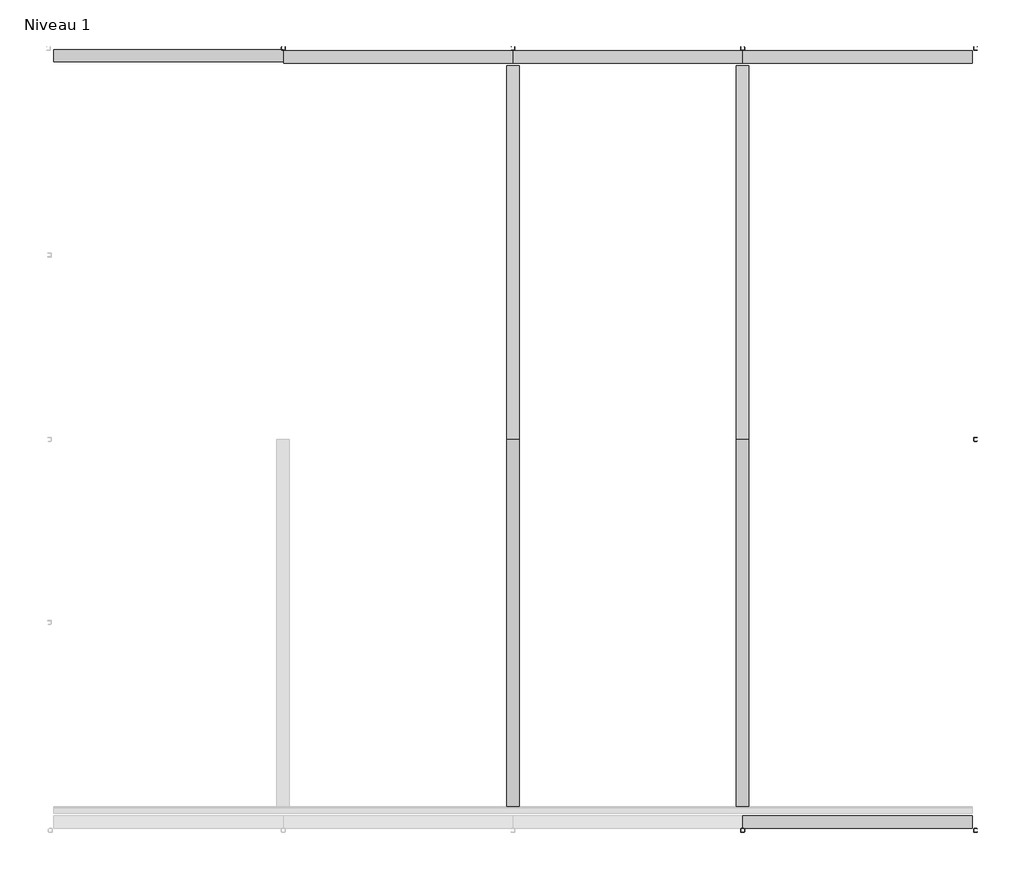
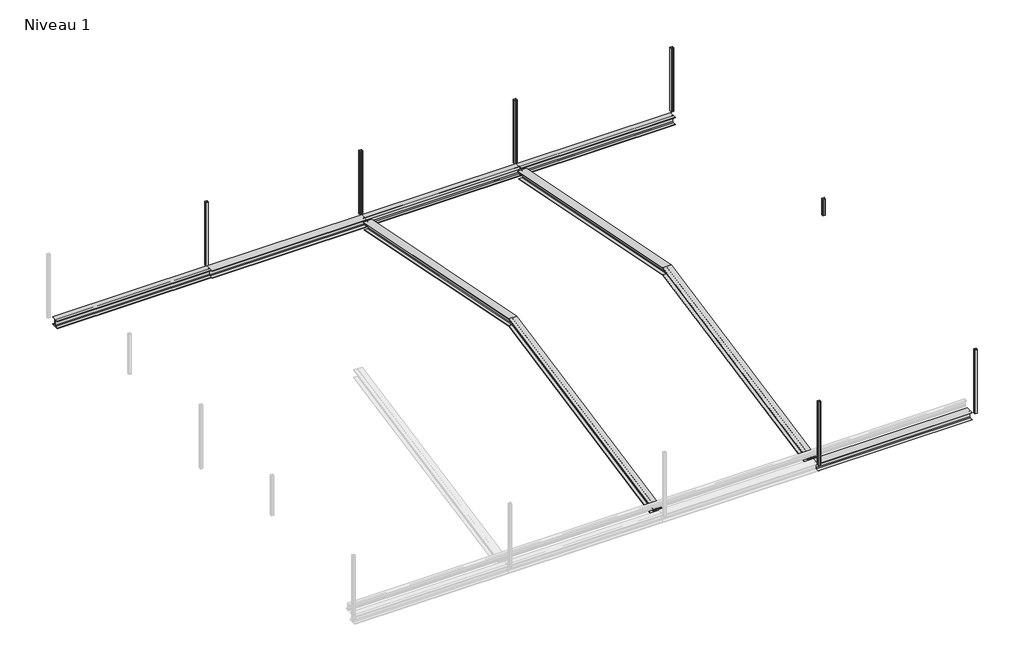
# One storey, part 2 of 2: 9 beams, 7 columns.
"""IFC4 building model written with IfcOpenShell, lengths in millimetres."""

from ifc_helpers import new_model, si_unit, point, frame, frame_2d, origin, place, context, project, spatial, polyline, circle_curve, ellipse_curve, trimmed, segment, composite_curve, outline, extrude, transform, mapped, element, save
from ifc_brep_helpers import plane_surface, revolved_surface, advanced_brep
from components import hea160_fb2920ae, poteau_shs_en_10210_2_shs50x5_0b2d64e4

model = new_model("IFC4")

# Units and contexts
model_context = context("Model", 3, world=origin())
ifc_project = project(units=[si_unit("LENGTHUNIT", "METRE", prefix="MILLI")], contexts=[model_context])

# Site, building, storey
site = spatial("IfcSite", under=ifc_project)
building = spatial("IfcBuilding", under=site)
storey = spatial("IfcBuildingStorey", under=building, Name="Niveau 1", Elevation=3000.0)

# Beams
placement = place(None, origin())
element("IfcBeam", 1, ObjectType="HE-A : HEA160", at=placement, inside=storey, context=model_context, shape_type="AdvancedBrep", body=[
    advanced_brep(
    [(-7313.8291149, 1063.1731168, 2856.3099456), (-7313.8291149, 1064.9381621, 2847.4847195), (-7153.8291149, 1064.9381621, 2847.4847195), (-7153.8291149, 1063.1731168, 2856.3099456), (-7215.8291149, 1063.1731168, 2856.3099456), (-7230.8291149, 1060.2313748, 2871.0186558), (-7230.8291149, 1039.8352968, 2972.999046), (-7215.8291149, 1036.8935547, 2987.7077562), (-7153.8291149, 1036.8935547, 2987.7077562), (-7153.8291149, 1035.1285095, 2996.5329822), (-7313.8291149, 1035.1285095, 2996.5329822), (-7313.8291149, 1036.8935547, 2987.7077562), (-7251.8291149, 1036.8935547, 2987.7077562), (-7236.8291149, 1039.8352968, 2972.999046), (-7236.8291149, 1060.2313748, 2871.0186558), (-7251.8291149, 1063.1731168, 2856.3099456), (-7251.8291149, 5917.4635983, 3827.1680419), (-7313.8291149, 5917.4635983, 3827.1680419), (-7236.8291149, 5917.4635983, 3842.4651005), (-7236.8291149, 5917.4635983, 3948.5247063), (-7251.8291149, 5917.4635983, 3963.8217649), (-7313.8291149, 5917.4635983, 3963.8217649), (-7313.8291149, 5917.4635983, 3973.0), (-7153.8291149, 5917.4635983, 3973.0), (-7153.8291149, 5917.4635983, 3963.8217649), (-7215.8291149, 5917.4635983, 3963.8217649), (-7230.8291149, 5917.4635983, 3948.5247063), (-7230.8291149, 5917.4635983, 3842.4651005), (-7215.8291149, 5917.4635983, 3827.1680419), (-7153.8291149, 5917.4635983, 3827.1680419), (-7153.8291149, 5917.4635983, 3817.9898068), (-7313.8291149, 5917.4635983, 3817.9898068)],
    [
        (0, 1),
        (1, 2),
        (2, 3),
        (3, 4),
        (4, 5, circle_curve(frame((-7215.8291149, 1060.2313748, 2871.0186558), z_axis=(0.0, 0.9805806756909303, 0.19611613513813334), x_axis=(1.0, 0.0, 0.0)), 15.0)),
        (5, 6),
        (6, 7, circle_curve(frame((-7215.8291149, 1039.8352968, 2972.999046), z_axis=(0.0, 0.9805806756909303, 0.19611613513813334), x_axis=(1.0, 0.0, 0.0)), 15.0)),
        (7, 8),
        (8, 9),
        (9, 10),
        (10, 11),
        (11, 12),
        (12, 13, circle_curve(frame((-7251.8291149, 1039.8352968, 2972.999046), z_axis=(0.0, 0.9805806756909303, 0.19611613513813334), x_axis=(1.0, 0.0, 0.0)), 15.0)),
        (13, 14),
        (14, 15, circle_curve(frame((-7251.8291149, 1060.2313748, 2871.0186558), z_axis=(0.0, 0.9805806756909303, 0.19611613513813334), x_axis=(1.0, 0.0, 0.0)), 15.0)),
        (15, 0),
        (16, 17),
        (17, 0),
        (15, 16),
        (18, 16, ellipse_curve(frame((-7251.8291149, 5917.4635983, 3842.4651005), z_axis=(0.0, 1.0, 0.0), x_axis=(0.0, 0.0, -0.9999999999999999)), 15.2970585, 15.0)),
        (14, 18),
        (19, 18),
        (13, 19),
        (20, 19, ellipse_curve(frame((-7251.8291149, 5917.4635983, 3948.5247063), z_axis=(0.0, 1.0, 0.0), x_axis=(0.0, 0.0, -0.9999999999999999)), 15.2970585, 15.0)),
        (12, 20),
        (21, 20),
        (11, 21),
        (22, 21),
        (10, 22),
        (23, 22),
        (9, 23),
        (24, 23),
        (8, 24),
        (25, 24),
        (7, 25),
        (26, 25, ellipse_curve(frame((-7215.8291149, 5917.4635983, 3948.5247063), z_axis=(0.0, 1.0, 0.0), x_axis=(0.0, 0.0, -0.9999999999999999)), 15.2970585, 15.0)),
        (6, 26),
        (27, 26),
        (5, 27),
        (28, 27, ellipse_curve(frame((-7215.8291149, 5917.4635983, 3842.4651005), z_axis=(0.0, 1.0, 0.0), x_axis=(0.0, 0.0, -0.9999999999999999)), 15.2970585, 15.0)),
        (4, 28),
        (29, 28),
        (3, 29),
        (30, 29),
        (2, 30),
        (31, 30),
        (1, 31),
        (17, 31),
    ],
    [
        plane_surface(frame((-7233.8291149, 1050.0333358, 2922.0088509), z_axis=(0.0, -0.9805806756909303, -0.19611613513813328), x_axis=(0.0, -0.19611613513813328, 0.9805806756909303))),
        plane_surface(frame((-7313.8291149, 5941.967624, 3832.068847), z_axis=(0.0, -0.19611613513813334, 0.9805806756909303), x_axis=(0.0, -0.9805806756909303, -0.19611613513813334))),
        revolved_surface(polyline([(-7236.8291149, 1060.2313747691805, 2871.0186557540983), (-7236.8291149, 5920.405340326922, 3843.0534488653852)]), (-7251.8291149, 5939.025882, 3846.7775572), (0.0, -0.9805806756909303, -0.19611613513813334)),
        plane_surface(frame((-7236.8291149, 5939.025882, 3846.7775572), z_axis=(-1.0, 0.0, 0.0), x_axis=(0.0, -0.9805806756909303, -0.19611613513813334))),
        revolved_surface(polyline([(-7236.8291149, 1039.835296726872, 2972.9990460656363), (-7236.8291149, 5920.405340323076, 3949.1130547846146)]), (-7251.8291149, 5918.6298039, 3948.7579475), (0.0, -0.9805806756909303, -0.19611613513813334)),
        plane_surface(frame((-7251.8291149, 5915.6880619, 3963.4666576), z_axis=(0.0, 0.19611613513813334, -0.9805806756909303), x_axis=(0.0, -0.9805806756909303, -0.19611613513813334))),
        plane_surface(frame((-7313.8291149, 5915.6880619, 3963.4666576), z_axis=(-1.0, 0.0, 0.0), x_axis=(0.0, -0.9805806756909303, -0.19611613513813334))),
        plane_surface(frame((-7313.8291149, 5913.9230167, 3972.2918837), z_axis=(0.0, -0.19611613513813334, 0.9805806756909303), x_axis=(0.0, -0.9805806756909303, -0.19611613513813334))),
        plane_surface(frame((-7153.8291149, 5913.9230167, 3972.2918837), z_axis=(1.0, 0.0, 0.0), x_axis=(0.0, -0.9805806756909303, -0.19611613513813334))),
        plane_surface(frame((-7153.8291149, 5915.6880619, 3963.4666576), z_axis=(0.0, 0.19611613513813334, -0.9805806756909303), x_axis=(0.0, -0.9805806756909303, -0.19611613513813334))),
        revolved_surface(polyline([(-7200.8291149, 1039.835296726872, 2972.9990460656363), (-7200.8291149, 5920.405340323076, 3949.1130547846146)]), (-7215.8291149, 5918.6298039, 3948.7579475), (0.0, -0.9805806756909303, -0.19611613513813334)),
        plane_surface(frame((-7230.8291149, 5918.6298039, 3948.7579475), z_axis=(1.0, 0.0, 0.0), x_axis=(0.0, -0.9805806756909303, -0.19611613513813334))),
        revolved_surface(polyline([(-7200.8291149, 1060.2313747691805, 2871.0186557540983), (-7200.8291149, 5920.405340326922, 3843.0534488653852)]), (-7215.8291149, 5939.025882, 3846.7775572), (0.0, -0.9805806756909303, -0.19611613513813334)),
        plane_surface(frame((-7215.8291149, 5941.967624, 3832.068847), z_axis=(0.0, -0.19611613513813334, 0.9805806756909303), x_axis=(0.0, -0.9805806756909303, -0.19611613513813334))),
        plane_surface(frame((-7153.8291149, 5941.967624, 3832.068847), z_axis=(1.0, 0.0, 0.0), x_axis=(0.0, -0.9805806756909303, -0.19611613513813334))),
        plane_surface(frame((-7153.8291149, 5943.7326692, 3823.243621), z_axis=(0.0, 0.19611613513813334, -0.9805806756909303), x_axis=(0.0, -0.9805806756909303, -0.19611613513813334))),
        plane_surface(frame((-7313.8291149, 5943.7326692, 3823.243621), z_axis=(-1.0, 0.0, 0.0), x_axis=(0.0, -0.9805806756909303, -0.19611613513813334))),
        plane_surface(frame((-7233.8291149, 5917.4635983, 3817.9898068), z_axis=(0.0, 1.0, 0.0), x_axis=(0.0, 0.0, -1.0))),
    ],
    [
        (0, [[1, 2, 3, 4, 5, 6, 7, 8, 9, 10, 11, 12, 13, 14, 15, 16]]),
        (1, [[17, 18, -16, 19]]),
        (2, [[20, -19, -15, 21]]),
        (3, [[22, -21, -14, 23]]),
        (4, [[24, -23, -13, 25]]),
        (5, [[26, -25, -12, 27]]),
        (6, [[28, -27, -11, 29]]),
        (7, [[30, -29, -10, 31]]),
        (8, [[32, -31, -9, 33]]),
        (9, [[34, -33, -8, 35]]),
        (10, [[36, -35, -7, 37]]),
        (11, [[38, -37, -6, 39]]),
        (12, [[40, -39, -5, 41]]),
        (13, [[42, -41, -4, 43]]),
        (14, [[44, -43, -3, 45]]),
        (15, [[46, -45, -2, 47]]),
        (16, [[48, -47, -1, -18]]),
        (17, [[-17, -20, -22, -24, -26, -28, -30, -32, -34, -36, -38, -40, -42, -44, -46, -48]]),
    ],
),
])
element("IfcBeam", 2, ObjectType="HE-A : HEA160", at=placement, inside=storey, context=model_context, shape_type="AdvancedBrep", body=[
    advanced_brep(
    [(-7313.8291149, 10771.7540798, 2856.3099456), (-7251.8291149, 10771.7540798, 2856.3099456), (-7236.8291149, 10774.6958218, 2871.0186558), (-7236.8291149, 10795.0918999, 2972.999046), (-7251.8291149, 10798.0336419, 2987.7077562), (-7313.8291149, 10798.0336419, 2987.7077562), (-7313.8291149, 10799.7986871, 2996.5329822), (-7153.8291149, 10799.7986871, 2996.5329822), (-7153.8291149, 10798.0336419, 2987.7077562), (-7215.8291149, 10798.0336419, 2987.7077562), (-7230.8291149, 10795.0918999, 2972.999046), (-7230.8291149, 10774.6958218, 2871.0186558), (-7215.8291149, 10771.7540798, 2856.3099456), (-7153.8291149, 10771.7540798, 2856.3099456), (-7153.8291149, 10769.9890346, 2847.4847195), (-7313.8291149, 10769.9890346, 2847.4847195), (-7251.8291149, 5917.4635983, 3827.1680419), (-7313.8291149, 5917.4635983, 3827.1680419), (-7236.8291149, 5917.4635983, 3842.4651005), (-7236.8291149, 5917.4635983, 3948.5247063), (-7251.8291149, 5917.4635983, 3963.8217649), (-7313.8291149, 5917.4635983, 3963.8217649), (-7313.8291149, 5917.4635983, 3973.0), (-7153.8291149, 5917.4635983, 3973.0), (-7153.8291149, 5917.4635983, 3963.8217649), (-7215.8291149, 5917.4635983, 3963.8217649), (-7230.8291149, 5917.4635983, 3948.5247063), (-7230.8291149, 5917.4635983, 3842.4651005), (-7215.8291149, 5917.4635983, 3827.1680419), (-7153.8291149, 5917.4635983, 3827.1680419), (-7153.8291149, 5917.4635983, 3817.9898068), (-7313.8291149, 5917.4635983, 3817.9898068)],
    [
        (0, 1),
        (1, 2, circle_curve(frame((-7251.8291149, 10774.6958218, 2871.0186558), z_axis=(0.0, -0.9805806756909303, 0.19611613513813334), x_axis=(1.0, 0.0, 0.0)), 15.0)),
        (2, 3),
        (3, 4, circle_curve(frame((-7251.8291149, 10795.0918999, 2972.999046), z_axis=(0.0, -0.9805806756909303, 0.19611613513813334), x_axis=(1.0, 0.0, 0.0)), 15.0)),
        (4, 5),
        (5, 6),
        (6, 7),
        (7, 8),
        (8, 9),
        (9, 10, circle_curve(frame((-7215.8291149, 10795.0918999, 2972.999046), z_axis=(0.0, -0.9805806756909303, 0.19611613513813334), x_axis=(1.0, 0.0, 0.0)), 15.0)),
        (10, 11),
        (11, 12, circle_curve(frame((-7215.8291149, 10774.6958218, 2871.0186558), z_axis=(0.0, -0.9805806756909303, 0.19611613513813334), x_axis=(1.0, 0.0, 0.0)), 15.0)),
        (12, 13),
        (13, 14),
        (14, 15),
        (15, 0),
        (16, 1),
        (0, 17),
        (17, 16),
        (18, 2),
        (16, 18, ellipse_curve(frame((-7251.8291149, 5917.4635983, 3842.4651005), z_axis=(0.0, -1.0, 0.0), x_axis=(0.0, 0.0, -0.9999999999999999)), 15.2970585, 15.0)),
        (19, 3),
        (18, 19),
        (20, 4),
        (19, 20, ellipse_curve(frame((-7251.8291149, 5917.4635983, 3948.5247063), z_axis=(0.0, -1.0, 0.0), x_axis=(0.0, 0.0, -0.9999999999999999)), 15.2970585, 15.0)),
        (21, 5),
        (20, 21),
        (22, 6),
        (21, 22),
        (23, 7),
        (22, 23),
        (24, 8),
        (23, 24),
        (25, 9),
        (24, 25),
        (26, 10),
        (25, 26, ellipse_curve(frame((-7215.8291149, 5917.4635983, 3948.5247063), z_axis=(0.0, -1.0, 0.0), x_axis=(0.0, 0.0, -0.9999999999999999)), 15.2970585, 15.0)),
        (27, 11),
        (26, 27),
        (28, 12),
        (27, 28, ellipse_curve(frame((-7215.8291149, 5917.4635983, 3842.4651005), z_axis=(0.0, -1.0, 0.0), x_axis=(0.0, 0.0, -0.9999999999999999)), 15.2970585, 15.0)),
        (29, 13),
        (28, 29),
        (30, 14),
        (29, 30),
        (31, 15),
        (30, 31),
        (31, 17),
    ],
    [
        plane_surface(frame((-7233.8291149, 10784.8938609, 2922.0088509), z_axis=(0.0, 0.9805806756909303, -0.19611613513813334), x_axis=(0.0, 0.19611613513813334, 0.9805806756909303))),
        plane_surface(frame((-7313.8291149, 5892.9595727, 3832.068847), z_axis=(0.0, 0.19611613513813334, 0.9805806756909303), x_axis=(0.0, 0.9805806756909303, -0.19611613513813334))),
        revolved_surface(polyline([(-7236.8291149, 10774.695821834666, 2871.018655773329), (-7236.8291149, 5914.521856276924, 3843.053448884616)]), (-7251.8291149, 5895.9013147, 3846.7775572), (0.0, 0.9805806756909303, -0.19611613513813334)),
        plane_surface(frame((-7236.8291149, 5895.9013147, 3846.7775572), z_axis=(-1.0, 0.0, 0.0), x_axis=(0.0, 0.9805806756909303, -0.19611613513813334))),
        revolved_surface(polyline([(-7236.8291149, 10795.09189991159, 2972.9990460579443), (-7236.8291149, 5914.521856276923, 3949.113054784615)]), (-7251.8291149, 5916.2973927, 3948.7579475), (0.0, 0.9805806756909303, -0.19611613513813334)),
        plane_surface(frame((-7251.8291149, 5919.2391348, 3963.4666576), z_axis=(0.0, -0.19611613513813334, -0.9805806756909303), x_axis=(0.0, 0.9805806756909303, -0.19611613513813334))),
        plane_surface(frame((-7313.8291149, 5919.2391348, 3963.4666576), z_axis=(-1.0, 0.0, 0.0), x_axis=(0.0, 0.9805806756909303, -0.19611613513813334))),
        plane_surface(frame((-7313.8291149, 5921.00418, 3972.2918837), z_axis=(0.0, 0.19611613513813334, 0.9805806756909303), x_axis=(0.0, 0.9805806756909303, -0.19611613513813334))),
        plane_surface(frame((-7153.8291149, 5921.00418, 3972.2918837), z_axis=(1.0, 0.0, 0.0), x_axis=(0.0, 0.9805806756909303, -0.19611613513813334))),
        plane_surface(frame((-7153.8291149, 5919.2391348, 3963.4666576), z_axis=(0.0, -0.19611613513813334, -0.9805806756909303), x_axis=(0.0, 0.9805806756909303, -0.19611613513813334))),
        revolved_surface(polyline([(-7200.8291149, 10795.09189991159, 2972.9990460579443), (-7200.8291149, 5914.521856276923, 3949.113054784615)]), (-7215.8291149, 5916.2973927, 3948.7579475), (0.0, 0.9805806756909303, -0.19611613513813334)),
        plane_surface(frame((-7230.8291149, 5916.2973927, 3948.7579475), z_axis=(1.0, 0.0, 0.0), x_axis=(0.0, 0.9805806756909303, -0.19611613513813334))),
        revolved_surface(polyline([(-7200.8291149, 10774.695821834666, 2871.018655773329), (-7200.8291149, 5914.521856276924, 3843.053448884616)]), (-7215.8291149, 5895.9013147, 3846.7775572), (0.0, 0.9805806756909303, -0.19611613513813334)),
        plane_surface(frame((-7215.8291149, 5892.9595727, 3832.068847), z_axis=(0.0, 0.19611613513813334, 0.9805806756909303), x_axis=(0.0, 0.9805806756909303, -0.19611613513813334))),
        plane_surface(frame((-7153.8291149, 5892.9595727, 3832.068847), z_axis=(1.0, 0.0, 0.0), x_axis=(0.0, 0.9805806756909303, -0.19611613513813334))),
        plane_surface(frame((-7153.8291149, 5891.1945274, 3823.243621), z_axis=(0.0, -0.19611613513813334, -0.9805806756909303), x_axis=(0.0, 0.9805806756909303, -0.19611613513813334))),
        plane_surface(frame((-7313.8291149, 5891.1945274, 3823.243621), z_axis=(-1.0, 0.0, 0.0), x_axis=(0.0, 0.9805806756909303, -0.19611613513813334))),
        plane_surface(frame((-7233.8291149, 5917.4635983, 3817.9898068), z_axis=(0.0, -1.0, 0.0), x_axis=(0.0, 0.0, 1.0))),
    ],
    [
        (0, [[1, 2, 3, 4, 5, 6, 7, 8, 9, 10, 11, 12, 13, 14, 15, 16]]),
        (1, [[17, -1, 18, 19]]),
        (2, [[20, -2, -17, 21]]),
        (3, [[22, -3, -20, 23]]),
        (4, [[24, -4, -22, 25]]),
        (5, [[26, -5, -24, 27]]),
        (6, [[28, -6, -26, 29]]),
        (7, [[30, -7, -28, 31]]),
        (8, [[32, -8, -30, 33]]),
        (9, [[34, -9, -32, 35]]),
        (10, [[36, -10, -34, 37]]),
        (11, [[38, -11, -36, 39]]),
        (12, [[40, -12, -38, 41]]),
        (13, [[42, -13, -40, 43]]),
        (14, [[44, -14, -42, 45]]),
        (15, [[46, -15, -44, 47]]),
        (16, [[-18, -16, -46, 48]]),
        (17, [[-48, -47, -45, -43, -41, -39, -37, -35, -33, -31, -29, -27, -25, -23, -21, -19]]),
    ],
),
])
element("IfcBeam", 3, ObjectType="HE-A : HEA160", at=placement, inside=storey, context=model_context, shape_type="AdvancedBrep", body=[
    advanced_brep(
    [(-10313.8291149, 1063.1731168, 2856.3099456), (-10313.8291149, 1064.9381621, 2847.4847195), (-10153.8291149, 1064.9381621, 2847.4847195), (-10153.8291149, 1063.1731168, 2856.3099456), (-10215.8291149, 1063.1731168, 2856.3099456), (-10230.8291149, 1060.2313748, 2871.0186558), (-10230.8291149, 1039.8352968, 2972.999046), (-10215.8291149, 1036.8935547, 2987.7077562), (-10153.8291149, 1036.8935547, 2987.7077562), (-10153.8291149, 1035.1285095, 2996.5329822), (-10313.8291149, 1035.1285095, 2996.5329822), (-10313.8291149, 1036.8935547, 2987.7077562), (-10251.8291149, 1036.8935547, 2987.7077562), (-10236.8291149, 1039.8352968, 2972.999046), (-10236.8291149, 1060.2313748, 2871.0186558), (-10251.8291149, 1063.1731168, 2856.3099456), (-10251.8291149, 5917.4635983, 3827.1680419), (-10313.8291149, 5917.4635983, 3827.1680419), (-10236.8291149, 5917.4635983, 3842.4651005), (-10236.8291149, 5917.4635983, 3948.5247063), (-10251.8291149, 5917.4635983, 3963.8217649), (-10313.8291149, 5917.4635983, 3963.8217649), (-10313.8291149, 5917.4635983, 3973.0), (-10153.8291149, 5917.4635983, 3973.0), (-10153.8291149, 5917.4635983, 3963.8217649), (-10215.8291149, 5917.4635983, 3963.8217649), (-10230.8291149, 5917.4635983, 3948.5247063), (-10230.8291149, 5917.4635983, 3842.4651005), (-10215.8291149, 5917.4635983, 3827.1680419), (-10153.8291149, 5917.4635983, 3827.1680419), (-10153.8291149, 5917.4635983, 3817.9898068), (-10313.8291149, 5917.4635983, 3817.9898068)],
    [
        (0, 1),
        (1, 2),
        (2, 3),
        (3, 4),
        (4, 5, circle_curve(frame((-10215.8291149, 1060.2313748, 2871.0186558), z_axis=(0.0, 0.9805806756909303, 0.19611613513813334), x_axis=(1.0, 0.0, 0.0)), 15.0)),
        (5, 6),
        (6, 7, circle_curve(frame((-10215.8291149, 1039.8352968, 2972.999046), z_axis=(0.0, 0.9805806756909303, 0.19611613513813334), x_axis=(1.0, 0.0, 0.0)), 15.0)),
        (7, 8),
        (8, 9),
        (9, 10),
        (10, 11),
        (11, 12),
        (12, 13, circle_curve(frame((-10251.8291149, 1039.8352968, 2972.999046), z_axis=(0.0, 0.9805806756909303, 0.19611613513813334), x_axis=(1.0, 0.0, 0.0)), 15.0)),
        (13, 14),
        (14, 15, circle_curve(frame((-10251.8291149, 1060.2313748, 2871.0186558), z_axis=(0.0, 0.9805806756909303, 0.19611613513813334), x_axis=(1.0, 0.0, 0.0)), 15.0)),
        (15, 0),
        (16, 17),
        (17, 0),
        (15, 16),
        (18, 16, ellipse_curve(frame((-10251.8291149, 5917.4635983, 3842.4651005), z_axis=(0.0, 1.0, 0.0), x_axis=(0.0, 0.0, -0.9999999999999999)), 15.2970585, 15.0)),
        (14, 18),
        (19, 18),
        (13, 19),
        (20, 19, ellipse_curve(frame((-10251.8291149, 5917.4635983, 3948.5247063), z_axis=(0.0, 1.0, 0.0), x_axis=(0.0, 0.0, -0.9999999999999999)), 15.2970585, 15.0)),
        (12, 20),
        (21, 20),
        (11, 21),
        (22, 21),
        (10, 22),
        (23, 22),
        (9, 23),
        (24, 23),
        (8, 24),
        (25, 24),
        (7, 25),
        (26, 25, ellipse_curve(frame((-10215.8291149, 5917.4635983, 3948.5247063), z_axis=(0.0, 1.0, 0.0), x_axis=(0.0, 0.0, -0.9999999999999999)), 15.2970585, 15.0)),
        (6, 26),
        (27, 26),
        (5, 27),
        (28, 27, ellipse_curve(frame((-10215.8291149, 5917.4635983, 3842.4651005), z_axis=(0.0, 1.0, 0.0), x_axis=(0.0, 0.0, -0.9999999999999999)), 15.2970585, 15.0)),
        (4, 28),
        (29, 28),
        (3, 29),
        (30, 29),
        (2, 30),
        (31, 30),
        (1, 31),
        (17, 31),
    ],
    [
        plane_surface(frame((-10233.8291149, 1050.0333358, 2922.0088509), z_axis=(0.0, -0.9805806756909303, -0.19611613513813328), x_axis=(0.0, -0.19611613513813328, 0.9805806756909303))),
        plane_surface(frame((-10313.8291149, 5941.967624, 3832.068847), z_axis=(0.0, -0.19611613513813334, 0.9805806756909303), x_axis=(0.0, -0.9805806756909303, -0.19611613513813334))),
        revolved_surface(polyline([(-10236.8291149, 1060.2313747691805, 2871.0186557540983), (-10236.8291149, 5920.405340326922, 3843.0534488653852)]), (-10251.8291149, 5939.025882, 3846.7775572), (0.0, -0.9805806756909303, -0.19611613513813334)),
        plane_surface(frame((-10236.8291149, 5939.025882, 3846.7775572), z_axis=(-1.0, 0.0, 0.0), x_axis=(0.0, -0.9805806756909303, -0.19611613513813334))),
        revolved_surface(polyline([(-10236.8291149, 1039.835296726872, 2972.9990460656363), (-10236.8291149, 5920.405340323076, 3949.1130547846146)]), (-10251.8291149, 5918.6298039, 3948.7579475), (0.0, -0.9805806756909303, -0.19611613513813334)),
        plane_surface(frame((-10251.8291149, 5915.6880619, 3963.4666576), z_axis=(0.0, 0.19611613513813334, -0.9805806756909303), x_axis=(0.0, -0.9805806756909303, -0.19611613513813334))),
        plane_surface(frame((-10313.8291149, 5915.6880619, 3963.4666576), z_axis=(-1.0, 0.0, 0.0), x_axis=(0.0, -0.9805806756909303, -0.19611613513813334))),
        plane_surface(frame((-10313.8291149, 5913.9230167, 3972.2918837), z_axis=(0.0, -0.19611613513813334, 0.9805806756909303), x_axis=(0.0, -0.9805806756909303, -0.19611613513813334))),
        plane_surface(frame((-10153.8291149, 5913.9230167, 3972.2918837), z_axis=(1.0, 0.0, 0.0), x_axis=(0.0, -0.9805806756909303, -0.19611613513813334))),
        plane_surface(frame((-10153.8291149, 5915.6880619, 3963.4666576), z_axis=(0.0, 0.19611613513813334, -0.9805806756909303), x_axis=(0.0, -0.9805806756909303, -0.19611613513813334))),
        revolved_surface(polyline([(-10200.8291149, 1039.835296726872, 2972.9990460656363), (-10200.8291149, 5920.405340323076, 3949.1130547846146)]), (-10215.8291149, 5918.6298039, 3948.7579475), (0.0, -0.9805806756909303, -0.19611613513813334)),
        plane_surface(frame((-10230.8291149, 5918.6298039, 3948.7579475), z_axis=(1.0, 0.0, 0.0), x_axis=(0.0, -0.9805806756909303, -0.19611613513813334))),
        revolved_surface(polyline([(-10200.8291149, 1060.2313747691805, 2871.0186557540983), (-10200.8291149, 5920.405340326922, 3843.0534488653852)]), (-10215.8291149, 5939.025882, 3846.7775572), (0.0, -0.9805806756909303, -0.19611613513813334)),
        plane_surface(frame((-10215.8291149, 5941.967624, 3832.068847), z_axis=(0.0, -0.19611613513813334, 0.9805806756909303), x_axis=(0.0, -0.9805806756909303, -0.19611613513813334))),
        plane_surface(frame((-10153.8291149, 5941.967624, 3832.068847), z_axis=(1.0, 0.0, 0.0), x_axis=(0.0, -0.9805806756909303, -0.19611613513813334))),
        plane_surface(frame((-10153.8291149, 5943.7326692, 3823.243621), z_axis=(0.0, 0.19611613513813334, -0.9805806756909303), x_axis=(0.0, -0.9805806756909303, -0.19611613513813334))),
        plane_surface(frame((-10313.8291149, 5943.7326692, 3823.243621), z_axis=(-1.0, 0.0, 0.0), x_axis=(0.0, -0.9805806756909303, -0.19611613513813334))),
        plane_surface(frame((-10233.8291149, 5917.4635983, 3817.9898068), z_axis=(0.0, 1.0, 0.0), x_axis=(0.0, 0.0, -1.0))),
    ],
    [
        (0, [[1, 2, 3, 4, 5, 6, 7, 8, 9, 10, 11, 12, 13, 14, 15, 16]]),
        (1, [[17, 18, -16, 19]]),
        (2, [[20, -19, -15, 21]]),
        (3, [[22, -21, -14, 23]]),
        (4, [[24, -23, -13, 25]]),
        (5, [[26, -25, -12, 27]]),
        (6, [[28, -27, -11, 29]]),
        (7, [[30, -29, -10, 31]]),
        (8, [[32, -31, -9, 33]]),
        (9, [[34, -33, -8, 35]]),
        (10, [[36, -35, -7, 37]]),
        (11, [[38, -37, -6, 39]]),
        (12, [[40, -39, -5, 41]]),
        (13, [[42, -41, -4, 43]]),
        (14, [[44, -43, -3, 45]]),
        (15, [[46, -45, -2, 47]]),
        (16, [[48, -47, -1, -18]]),
        (17, [[-17, -20, -22, -24, -26, -28, -30, -32, -34, -36, -38, -40, -42, -44, -46, -48]]),
    ],
),
])
element("IfcBeam", 4, ObjectType="HE-A : HEA160", at=placement, inside=storey, context=model_context, shape_type="AdvancedBrep", body=[
    advanced_brep(
    [(-10313.8291149, 10771.7540798, 2856.3099456), (-10251.8291149, 10771.7540798, 2856.3099456), (-10236.8291149, 10774.6958218, 2871.0186558), (-10236.8291149, 10795.0918999, 2972.999046), (-10251.8291149, 10798.0336419, 2987.7077562), (-10313.8291149, 10798.0336419, 2987.7077562), (-10313.8291149, 10799.7986871, 2996.5329822), (-10153.8291149, 10799.7986871, 2996.5329822), (-10153.8291149, 10798.0336419, 2987.7077562), (-10215.8291149, 10798.0336419, 2987.7077562), (-10230.8291149, 10795.0918999, 2972.999046), (-10230.8291149, 10774.6958218, 2871.0186558), (-10215.8291149, 10771.7540798, 2856.3099456), (-10153.8291149, 10771.7540798, 2856.3099456), (-10153.8291149, 10769.9890346, 2847.4847195), (-10313.8291149, 10769.9890346, 2847.4847195), (-10251.8291149, 5917.4635983, 3827.1680419), (-10313.8291149, 5917.4635983, 3827.1680419), (-10236.8291149, 5917.4635983, 3842.4651005), (-10236.8291149, 5917.4635983, 3948.5247063), (-10251.8291149, 5917.4635983, 3963.8217649), (-10313.8291149, 5917.4635983, 3963.8217649), (-10313.8291149, 5917.4635983, 3973.0), (-10153.8291149, 5917.4635983, 3973.0), (-10153.8291149, 5917.4635983, 3963.8217649), (-10215.8291149, 5917.4635983, 3963.8217649), (-10230.8291149, 5917.4635983, 3948.5247063), (-10230.8291149, 5917.4635983, 3842.4651005), (-10215.8291149, 5917.4635983, 3827.1680419), (-10153.8291149, 5917.4635983, 3827.1680419), (-10153.8291149, 5917.4635983, 3817.9898068), (-10313.8291149, 5917.4635983, 3817.9898068)],
    [
        (0, 1),
        (1, 2, circle_curve(frame((-10251.8291149, 10774.6958218, 2871.0186558), z_axis=(0.0, -0.9805806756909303, 0.19611613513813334), x_axis=(1.0, 0.0, 0.0)), 15.0)),
        (2, 3),
        (3, 4, circle_curve(frame((-10251.8291149, 10795.0918999, 2972.999046), z_axis=(0.0, -0.9805806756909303, 0.19611613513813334), x_axis=(1.0, 0.0, 0.0)), 15.0)),
        (4, 5),
        (5, 6),
        (6, 7),
        (7, 8),
        (8, 9),
        (9, 10, circle_curve(frame((-10215.8291149, 10795.0918999, 2972.999046), z_axis=(0.0, -0.9805806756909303, 0.19611613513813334), x_axis=(1.0, 0.0, 0.0)), 15.0)),
        (10, 11),
        (11, 12, circle_curve(frame((-10215.8291149, 10774.6958218, 2871.0186558), z_axis=(0.0, -0.9805806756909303, 0.19611613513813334), x_axis=(1.0, 0.0, 0.0)), 15.0)),
        (12, 13),
        (13, 14),
        (14, 15),
        (15, 0),
        (16, 1),
        (0, 17),
        (17, 16),
        (18, 2),
        (16, 18, ellipse_curve(frame((-10251.8291149, 5917.4635983, 3842.4651005), z_axis=(0.0, -1.0, 0.0), x_axis=(0.0, 0.0, -0.9999999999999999)), 15.2970585, 15.0)),
        (19, 3),
        (18, 19),
        (20, 4),
        (19, 20, ellipse_curve(frame((-10251.8291149, 5917.4635983, 3948.5247063), z_axis=(0.0, -1.0, 0.0), x_axis=(0.0, 0.0, -0.9999999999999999)), 15.2970585, 15.0)),
        (21, 5),
        (20, 21),
        (22, 6),
        (21, 22),
        (23, 7),
        (22, 23),
        (24, 8),
        (23, 24),
        (25, 9),
        (24, 25),
        (26, 10),
        (25, 26, ellipse_curve(frame((-10215.8291149, 5917.4635983, 3948.5247063), z_axis=(0.0, -1.0, 0.0), x_axis=(0.0, 0.0, -0.9999999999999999)), 15.2970585, 15.0)),
        (27, 11),
        (26, 27),
        (28, 12),
        (27, 28, ellipse_curve(frame((-10215.8291149, 5917.4635983, 3842.4651005), z_axis=(0.0, -1.0, 0.0), x_axis=(0.0, 0.0, -0.9999999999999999)), 15.2970585, 15.0)),
        (29, 13),
        (28, 29),
        (30, 14),
        (29, 30),
        (31, 15),
        (30, 31),
        (31, 17),
    ],
    [
        plane_surface(frame((-10233.8291149, 10784.8938609, 2922.0088509), z_axis=(0.0, 0.9805806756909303, -0.19611613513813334), x_axis=(0.0, 0.19611613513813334, 0.9805806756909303))),
        plane_surface(frame((-10313.8291149, 5892.9595727, 3832.068847), z_axis=(0.0, 0.19611613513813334, 0.9805806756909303), x_axis=(0.0, 0.9805806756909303, -0.19611613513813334))),
        revolved_surface(polyline([(-10236.8291149, 10774.695821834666, 2871.018655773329), (-10236.8291149, 5914.521856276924, 3843.053448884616)]), (-10251.8291149, 5895.9013147, 3846.7775572), (0.0, 0.9805806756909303, -0.19611613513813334)),
        plane_surface(frame((-10236.8291149, 5895.9013147, 3846.7775572), z_axis=(-1.0, 0.0, 0.0), x_axis=(0.0, 0.9805806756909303, -0.19611613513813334))),
        revolved_surface(polyline([(-10236.8291149, 10795.09189991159, 2972.9990460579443), (-10236.8291149, 5914.521856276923, 3949.113054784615)]), (-10251.8291149, 5916.2973927, 3948.7579475), (0.0, 0.9805806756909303, -0.19611613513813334)),
        plane_surface(frame((-10251.8291149, 5919.2391348, 3963.4666576), z_axis=(0.0, -0.19611613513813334, -0.9805806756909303), x_axis=(0.0, 0.9805806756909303, -0.19611613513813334))),
        plane_surface(frame((-10313.8291149, 5919.2391348, 3963.4666576), z_axis=(-1.0, 0.0, 0.0), x_axis=(0.0, 0.9805806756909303, -0.19611613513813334))),
        plane_surface(frame((-10313.8291149, 5921.00418, 3972.2918837), z_axis=(0.0, 0.19611613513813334, 0.9805806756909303), x_axis=(0.0, 0.9805806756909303, -0.19611613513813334))),
        plane_surface(frame((-10153.8291149, 5921.00418, 3972.2918837), z_axis=(1.0, 0.0, 0.0), x_axis=(0.0, 0.9805806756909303, -0.19611613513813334))),
        plane_surface(frame((-10153.8291149, 5919.2391348, 3963.4666576), z_axis=(0.0, -0.19611613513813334, -0.9805806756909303), x_axis=(0.0, 0.9805806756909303, -0.19611613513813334))),
        revolved_surface(polyline([(-10200.8291149, 10795.09189991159, 2972.9990460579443), (-10200.8291149, 5914.521856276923, 3949.113054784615)]), (-10215.8291149, 5916.2973927, 3948.7579475), (0.0, 0.9805806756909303, -0.19611613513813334)),
        plane_surface(frame((-10230.8291149, 5916.2973927, 3948.7579475), z_axis=(1.0, 0.0, 0.0), x_axis=(0.0, 0.9805806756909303, -0.19611613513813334))),
        revolved_surface(polyline([(-10200.8291149, 10774.695821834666, 2871.018655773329), (-10200.8291149, 5914.521856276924, 3843.053448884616)]), (-10215.8291149, 5895.9013147, 3846.7775572), (0.0, 0.9805806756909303, -0.19611613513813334)),
        plane_surface(frame((-10215.8291149, 5892.9595727, 3832.068847), z_axis=(0.0, 0.19611613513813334, 0.9805806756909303), x_axis=(0.0, 0.9805806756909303, -0.19611613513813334))),
        plane_surface(frame((-10153.8291149, 5892.9595727, 3832.068847), z_axis=(1.0, 0.0, 0.0), x_axis=(0.0, 0.9805806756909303, -0.19611613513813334))),
        plane_surface(frame((-10153.8291149, 5891.1945274, 3823.243621), z_axis=(0.0, -0.19611613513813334, -0.9805806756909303), x_axis=(0.0, 0.9805806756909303, -0.19611613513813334))),
        plane_surface(frame((-10313.8291149, 5891.1945274, 3823.243621), z_axis=(-1.0, 0.0, 0.0), x_axis=(0.0, 0.9805806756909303, -0.19611613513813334))),
        plane_surface(frame((-10233.8291149, 5917.4635983, 3817.9898068), z_axis=(0.0, -1.0, 0.0), x_axis=(0.0, 0.0, 1.0))),
    ],
    [
        (0, [[1, 2, 3, 4, 5, 6, 7, 8, 9, 10, 11, 12, 13, 14, 15, 16]]),
        (1, [[17, -1, 18, 19]]),
        (2, [[20, -2, -17, 21]]),
        (3, [[22, -3, -20, 23]]),
        (4, [[24, -4, -22, 25]]),
        (5, [[26, -5, -24, 27]]),
        (6, [[28, -6, -26, 29]]),
        (7, [[30, -7, -28, 31]]),
        (8, [[32, -8, -30, 33]]),
        (9, [[34, -9, -32, 35]]),
        (10, [[36, -10, -34, 37]]),
        (11, [[38, -11, -36, 39]]),
        (12, [[40, -12, -38, 41]]),
        (13, [[42, -13, -40, 43]]),
        (14, [[44, -14, -42, 45]]),
        (15, [[46, -15, -44, 47]]),
        (16, [[-18, -16, -46, 48]]),
        (17, [[-48, -47, -45, -43, -41, -39, -37, -35, -33, -31, -29, -27, -25, -23, -21, -19]]),
    ],
),
])
hea160_shape = hea160_fb2920ae(model_context)
element("IfcBeam", 5, ObjectType="HE-A : HEA160", at=placement, inside=storey, context=model_context, shape_type="MappedRepresentation", body=[
    mapped(hea160_shape, transform((-14709.8148999, 10932.4635983, 2924.0), x_axis=(1.0, 0.0, 0.0), y_axis=(0.0, 1.0, 0.0), z_axis=(0.0, 0.0, 1.0))),
])
element("IfcBeam", 6, ObjectType="HE-A : HEA160", at=placement, inside=storey, context=model_context, shape_type="MappedRepresentation", body=[
    mapped(hea160_shape, transform((-11709.7291149, 10917.4635983, 2924.0), x_axis=(1.0, 0.0, 0.0), y_axis=(0.0, 1.0, 0.0), z_axis=(0.0, 0.0, 1.0))),
])
element("IfcBeam", 7, ObjectType="HE-A : HEA160", at=placement, inside=storey, context=model_context, shape_type="MappedRepresentation", body=[
    mapped(hea160_shape, transform((-8709.7291149, 10917.4635983, 2924.0), x_axis=(1.0, 0.0, 0.0), y_axis=(0.0, 1.0, 0.0), z_axis=(0.0, 0.0, 1.0))),
])
element("IfcBeam", 8, ObjectType="HE-A : HEA160", at=placement, inside=storey, context=model_context, shape_type="MappedRepresentation", body=[
    mapped(hea160_shape, transform((-5709.7291149, 10917.4635983, 2924.0), x_axis=(1.0, 0.0, 0.0), y_axis=(0.0, 1.0, 0.0), z_axis=(0.0, 0.0, 1.0))),
])
element("IfcBeam", 9, ObjectType="HE-A : HEA160", at=placement, inside=storey, context=model_context, shape_type="MappedRepresentation", body=[
    mapped(hea160_shape, transform((-5709.7291149, 917.4635983, 2924.0), x_axis=(1.0, 0.0, 0.0), y_axis=(0.0, 1.0, 0.0), z_axis=(0.0, 0.0, 1.0))),
])

# Columns
element("IfcColumn", 10, ObjectType="Poteau SHS (EN 10210-2) : SHS50x5", at=placement, inside=storey, context=model_context, shape_type="SweptSolid", body=[
    extrude(outline(composite_curve([segment(trimmed(circle_curve(frame_2d((-4173.8291149, 5934.9635983)), 7.5), [point((-4173.8291149, 5942.4635983))], [point((-4166.3291149, 5934.9635983))], False, "CARTESIAN"), True, "CONTINUOUS"), segment(polyline([(-4166.3291149, 5934.9635983), (-4166.3291149, 5899.9635983)]), True, "CONTINUOUS"), segment(trimmed(circle_curve(frame_2d((-4173.8291149, 5899.9635983)), 7.5), [point((-4166.3291149, 5899.9635983))], [point((-4173.8291149, 5892.4635983))], False, "CARTESIAN"), True, "CONTINUOUS"), segment(polyline([(-4173.8291149, 5892.4635983), (-4208.8291149, 5892.4635983)]), True, "CONTINUOUS"), segment(trimmed(circle_curve(frame_2d((-4208.8291149, 5899.9635983)), 7.5), [point((-4208.8291149, 5892.4635983))], [point((-4216.3291149, 5899.9635983))], False, "CARTESIAN"), True, "CONTINUOUS"), segment(polyline([(-4216.3291149, 5899.9635983), (-4216.3291149, 5934.9635983)]), True, "CONTINUOUS"), segment(trimmed(circle_curve(frame_2d((-4208.8291149, 5934.9635983)), 7.5), [point((-4216.3291149, 5934.9635983))], [point((-4208.8291149, 5942.4635983))], False, "CARTESIAN"), True, "CONTINUOUS"), segment(polyline([(-4208.8291149, 5942.4635983), (-4173.8291149, 5942.4635983)]), True, "CONTINUOUS")], self_intersect=False), holes=[composite_curve([segment(polyline([(-4176.3291149, 5937.4635983), (-4206.3291149, 5937.4635983)]), True, "CONTINUOUS"), segment(trimmed(circle_curve(frame_2d((-4206.3291149, 5932.4635983)), 5.0), [point((-4206.3291149, 5937.4635983))], [point((-4211.3291149, 5932.4635983))], True, "CARTESIAN"), True, "CONTINUOUS"), segment(polyline([(-4211.3291149, 5932.4635983), (-4211.3291149, 5902.4635983)]), True, "CONTINUOUS"), segment(trimmed(circle_curve(frame_2d((-4206.3291149, 5902.4635983)), 5.0), [point((-4211.3291149, 5902.4635983))], [point((-4206.3291149, 5897.4635983))], True, "CARTESIAN"), True, "CONTINUOUS"), segment(polyline([(-4206.3291149, 5897.4635983), (-4176.3291149, 5897.4635983)]), True, "CONTINUOUS"), segment(trimmed(circle_curve(frame_2d((-4176.3291149, 5902.4635983)), 5.0), [point((-4176.3291149, 5897.4635983))], [point((-4171.3291149, 5902.4635983))], True, "CARTESIAN"), True, "CONTINUOUS"), segment(polyline([(-4171.3291149, 5902.4635983), (-4171.3291149, 5932.4635983)]), True, "CONTINUOUS"), segment(trimmed(circle_curve(frame_2d((-4176.3291149, 5932.4635983)), 5.0), [point((-4171.3291149, 5932.4635983))], [point((-4176.3291149, 5937.4635983))], True, "CARTESIAN"), True, "CONTINUOUS")], self_intersect=False)]), frame((0.0, 0.0, 3968.0), z_axis=(0.0, 0.0, 1.0), x_axis=(1.0, 0.0, 0.0)), (0.0, 0.0, 1.0), 332.0),
])
poteau_shs_en_10210_2_shs50x5_shape = poteau_shs_en_10210_2_shs50x5_0b2d64e4(model_context)
element("IfcColumn", 11, ObjectType="Poteau SHS (EN 10210-2) : SHS50x5", at=placement, inside=storey, context=model_context, shape_type="MappedRepresentation", body=[
    mapped(poteau_shs_en_10210_2_shs50x5_shape, transform((-7233.8291149, 807.4635983, 0.0), x_axis=(1.0, 0.0, 0.0), y_axis=(0.0, 1.0, 0.0), z_axis=(0.0, 0.0, 1.0))),
])
element("IfcColumn", 12, ObjectType="Poteau SHS (EN 10210-2) : SHS50x5", at=placement, inside=storey, context=model_context, shape_type="MappedRepresentation", body=[
    mapped(poteau_shs_en_10210_2_shs50x5_shape, transform((-4191.3956945, 807.4635983, 0.0), x_axis=(1.0, 0.0, 0.0), y_axis=(0.0, 1.0, 0.0), z_axis=(0.0, 0.0, 1.0))),
])
element("IfcColumn", 13, ObjectType="Poteau SHS (EN 10210-2) : SHS50x5", at=placement, inside=storey, context=model_context, shape_type="MappedRepresentation", body=[
    mapped(poteau_shs_en_10210_2_shs50x5_shape, transform((-13233.8291149, 11027.4635983, 0.0), x_axis=(1.0, 0.0, 0.0), y_axis=(0.0, 1.0, 0.0), z_axis=(0.0, 0.0, 1.0))),
])
element("IfcColumn", 14, ObjectType="Poteau SHS (EN 10210-2) : SHS50x5", at=placement, inside=storey, context=model_context, shape_type="MappedRepresentation", body=[
    mapped(poteau_shs_en_10210_2_shs50x5_shape, transform((-10233.8291149, 11027.4635983, 0.0), x_axis=(1.0, 0.0, 0.0), y_axis=(0.0, 1.0, 0.0), z_axis=(0.0, 0.0, 1.0))),
])
element("IfcColumn", 15, ObjectType="Poteau SHS (EN 10210-2) : SHS50x5", at=placement, inside=storey, context=model_context, shape_type="MappedRepresentation", body=[
    mapped(poteau_shs_en_10210_2_shs50x5_shape, transform((-7233.8291149, 11027.4635983, 0.0), x_axis=(1.0, 0.0, 0.0), y_axis=(0.0, 1.0, 0.0), z_axis=(0.0, 0.0, 1.0))),
])
element("IfcColumn", 16, ObjectType="Poteau SHS (EN 10210-2) : SHS50x5", at=placement, inside=storey, context=model_context, shape_type="MappedRepresentation", body=[
    mapped(poteau_shs_en_10210_2_shs50x5_shape, transform((-4191.3956945, 11027.4635983, 0.0), x_axis=(1.0, 0.0, 0.0), y_axis=(0.0, 1.0, 0.0), z_axis=(0.0, 0.0, 1.0))),
])

save(model, "model.ifc")
